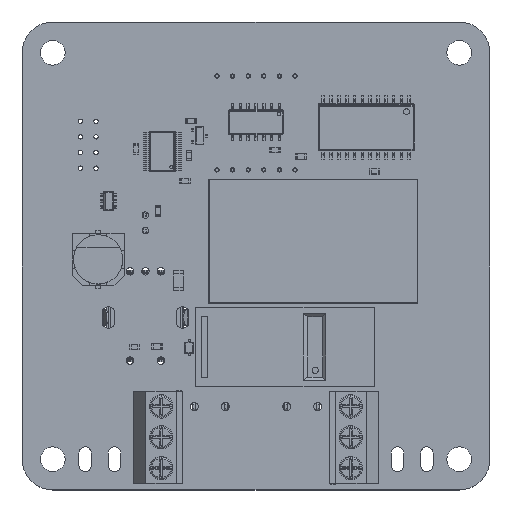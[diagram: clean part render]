
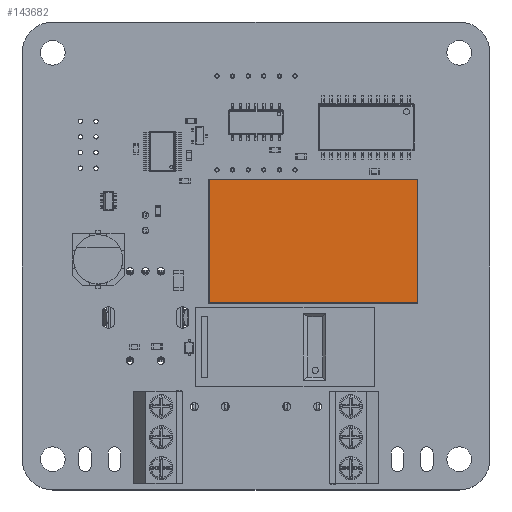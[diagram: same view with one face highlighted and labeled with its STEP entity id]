
A CAD part, top view. The second image highlights one B-rep face of the part: STEP entity #143682.
In plain terms, the highlighted planar face has unit normal (0, 0, 1).
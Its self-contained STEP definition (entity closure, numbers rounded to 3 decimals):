
#142981 = CYLINDRICAL_SURFACE('',#142982,0.1);
#142982 = AXIS2_PLACEMENT_3D('',#142983,#142984,#142985);
#142983 = CARTESIAN_POINT('',(0.1,0.,14.9));
#142984 = DIRECTION('',(0.,1.,0.));
#142985 = DIRECTION('',(-1.,0.,0.));
#143164 = VERTEX_POINT('',#143165);
#143165 = CARTESIAN_POINT('',(0.1,0.1,15.));
#143185 = EDGE_CURVE('',#143164,#143186,#143188,.T.);
#143186 = VERTEX_POINT('',#143187);
#143187 = CARTESIAN_POINT('',(0.1,20.1,15.));
#143188 = SURFACE_CURVE('',#143189,(#143193,#143200),.PCURVE_S1.);
#143189 = LINE('',#143190,#143191);
#143190 = CARTESIAN_POINT('',(0.1,0.,15.));
#143191 = VECTOR('',#143192,1.);
#143192 = DIRECTION('',(0.,1.,0.));
#143193 = PCURVE('',#142981,#143194);
#143194 = DEFINITIONAL_REPRESENTATION('',(#143195),#143199);
#143195 = LINE('',#143196,#143197);
#143196 = CARTESIAN_POINT('',(1.571,0.));
#143197 = VECTOR('',#143198,1.);
#143198 = DIRECTION('',(0.,1.));
#143199 = ( GEOMETRIC_REPRESENTATION_CONTEXT(2) 
PARAMETRIC_REPRESENTATION_CONTEXT() REPRESENTATION_CONTEXT('2D SPACE',''
  ) );
#143200 = PCURVE('',#143201,#143206);
#143201 = PLANE('',#143202);
#143202 = AXIS2_PLACEMENT_3D('',#143203,#143204,#143205);
#143203 = CARTESIAN_POINT('',(0.,0.,15.));
#143204 = DIRECTION('',(0.,0.,1.));
#143205 = DIRECTION('',(1.,0.,0.));
#143206 = DEFINITIONAL_REPRESENTATION('',(#143207),#143211);
#143207 = LINE('',#143208,#143209);
#143208 = CARTESIAN_POINT('',(0.1,0.));
#143209 = VECTOR('',#143210,1.);
#143210 = DIRECTION('',(0.,1.));
#143211 = ( GEOMETRIC_REPRESENTATION_CONTEXT(2) 
PARAMETRIC_REPRESENTATION_CONTEXT() REPRESENTATION_CONTEXT('2D SPACE',''
  ) );
#143365 = CYLINDRICAL_SURFACE('',#143366,0.1);
#143366 = AXIS2_PLACEMENT_3D('',#143367,#143368,#143369);
#143367 = CARTESIAN_POINT('',(0.,0.1,14.9));
#143368 = DIRECTION('',(1.,0.,0.));
#143369 = DIRECTION('',(0.,-1.,0.));
#143682 = ADVANCED_FACE('',(#143683),#143201,.T.);
#143683 = FACE_BOUND('',#143684,.T.);
#143684 = EDGE_LOOP('',(#143685,#143686,#143709,#143737));
#143685 = ORIENTED_EDGE('',*,*,#143185,.F.);
#143686 = ORIENTED_EDGE('',*,*,#143687,.T.);
#143687 = EDGE_CURVE('',#143164,#143688,#143690,.T.);
#143688 = VERTEX_POINT('',#143689);
#143689 = CARTESIAN_POINT('',(33.9,0.1,15.));
#143690 = SURFACE_CURVE('',#143691,(#143695,#143702),.PCURVE_S1.);
#143691 = LINE('',#143692,#143693);
#143692 = CARTESIAN_POINT('',(0.,0.1,15.));
#143693 = VECTOR('',#143694,1.);
#143694 = DIRECTION('',(1.,0.,0.));
#143695 = PCURVE('',#143201,#143696);
#143696 = DEFINITIONAL_REPRESENTATION('',(#143697),#143701);
#143697 = LINE('',#143698,#143699);
#143698 = CARTESIAN_POINT('',(0.,0.1));
#143699 = VECTOR('',#143700,1.);
#143700 = DIRECTION('',(1.,0.));
#143701 = ( GEOMETRIC_REPRESENTATION_CONTEXT(2) 
PARAMETRIC_REPRESENTATION_CONTEXT() REPRESENTATION_CONTEXT('2D SPACE',''
  ) );
#143702 = PCURVE('',#143365,#143703);
#143703 = DEFINITIONAL_REPRESENTATION('',(#143704),#143708);
#143704 = LINE('',#143705,#143706);
#143705 = CARTESIAN_POINT('',(4.712,0.));
#143706 = VECTOR('',#143707,1.);
#143707 = DIRECTION('',(0.,1.));
#143708 = ( GEOMETRIC_REPRESENTATION_CONTEXT(2) 
PARAMETRIC_REPRESENTATION_CONTEXT() REPRESENTATION_CONTEXT('2D SPACE',''
  ) );
#143709 = ORIENTED_EDGE('',*,*,#143710,.T.);
#143710 = EDGE_CURVE('',#143688,#143711,#143713,.T.);
#143711 = VERTEX_POINT('',#143712);
#143712 = CARTESIAN_POINT('',(33.9,20.1,15.));
#143713 = SURFACE_CURVE('',#143714,(#143718,#143725),.PCURVE_S1.);
#143714 = LINE('',#143715,#143716);
#143715 = CARTESIAN_POINT('',(33.9,0.,15.));
#143716 = VECTOR('',#143717,1.);
#143717 = DIRECTION('',(0.,1.,0.));
#143718 = PCURVE('',#143201,#143719);
#143719 = DEFINITIONAL_REPRESENTATION('',(#143720),#143724);
#143720 = LINE('',#143721,#143722);
#143721 = CARTESIAN_POINT('',(33.9,0.));
#143722 = VECTOR('',#143723,1.);
#143723 = DIRECTION('',(0.,1.));
#143724 = ( GEOMETRIC_REPRESENTATION_CONTEXT(2) 
PARAMETRIC_REPRESENTATION_CONTEXT() REPRESENTATION_CONTEXT('2D SPACE',''
  ) );
#143725 = PCURVE('',#143726,#143731);
#143726 = CYLINDRICAL_SURFACE('',#143727,0.1);
#143727 = AXIS2_PLACEMENT_3D('',#143728,#143729,#143730);
#143728 = CARTESIAN_POINT('',(33.9,0.,14.9));
#143729 = DIRECTION('',(0.,1.,0.));
#143730 = DIRECTION('',(1.,0.,0.));
#143731 = DEFINITIONAL_REPRESENTATION('',(#143732),#143736);
#143732 = LINE('',#143733,#143734);
#143733 = CARTESIAN_POINT('',(4.712,0.));
#143734 = VECTOR('',#143735,1.);
#143735 = DIRECTION('',(0.,1.));
#143736 = ( GEOMETRIC_REPRESENTATION_CONTEXT(2) 
PARAMETRIC_REPRESENTATION_CONTEXT() REPRESENTATION_CONTEXT('2D SPACE',''
  ) );
#143737 = ORIENTED_EDGE('',*,*,#143738,.F.);
#143738 = EDGE_CURVE('',#143186,#143711,#143739,.T.);
#143739 = SURFACE_CURVE('',#143740,(#143744,#143751),.PCURVE_S1.);
#143740 = LINE('',#143741,#143742);
#143741 = CARTESIAN_POINT('',(0.,20.1,15.));
#143742 = VECTOR('',#143743,1.);
#143743 = DIRECTION('',(1.,0.,0.));
#143744 = PCURVE('',#143201,#143745);
#143745 = DEFINITIONAL_REPRESENTATION('',(#143746),#143750);
#143746 = LINE('',#143747,#143748);
#143747 = CARTESIAN_POINT('',(0.,20.1));
#143748 = VECTOR('',#143749,1.);
#143749 = DIRECTION('',(1.,0.));
#143750 = ( GEOMETRIC_REPRESENTATION_CONTEXT(2) 
PARAMETRIC_REPRESENTATION_CONTEXT() REPRESENTATION_CONTEXT('2D SPACE',''
  ) );
#143751 = PCURVE('',#143752,#143757);
#143752 = CYLINDRICAL_SURFACE('',#143753,0.1);
#143753 = AXIS2_PLACEMENT_3D('',#143754,#143755,#143756);
#143754 = CARTESIAN_POINT('',(0.,20.1,14.9));
#143755 = DIRECTION('',(1.,0.,0.));
#143756 = DIRECTION('',(0.,1.,0.));
#143757 = DEFINITIONAL_REPRESENTATION('',(#143758),#143762);
#143758 = LINE('',#143759,#143760);
#143759 = CARTESIAN_POINT('',(1.571,0.));
#143760 = VECTOR('',#143761,1.);
#143761 = DIRECTION('',(0.,1.));
#143762 = ( GEOMETRIC_REPRESENTATION_CONTEXT(2) 
PARAMETRIC_REPRESENTATION_CONTEXT() REPRESENTATION_CONTEXT('2D SPACE',''
  ) );
